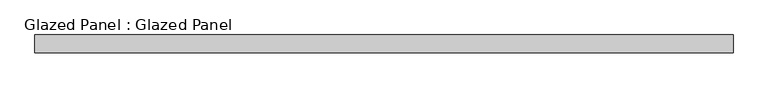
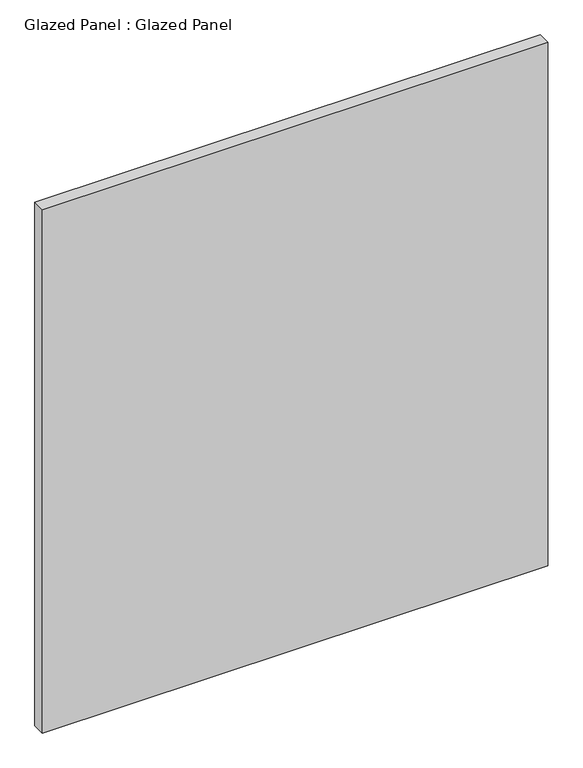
"""IFC4 building model written with IfcOpenShell, lengths in millimetres: plate geometry, Glazed Panel : Glazed Panel."""

from ifc_helpers import new_model, si_unit, origin, origin_with_axes, place, context, project, spatial, polyline, outline, extrude, source, transform, mapped, element, save


def glazed_panel_glazed_panel_1da3f97b(model_context):
    return source(origin(), model_context, "Body", "SweptSolid", [
        extrude(outline(polyline([(498.7728003, -38.1), (498.7728003, -63.5), (-498.7728003, -63.5), (-498.7728003, -38.1), (498.7728003, -38.1)])), origin_with_axes(), (0.0, 0.0, 1.0), 1092.2),
    ])


if __name__ == "__main__":
    model = new_model("IFC4")
    model_context = context("Model", 3, world=origin())
    ifc_project = project(units=[si_unit("LENGTHUNIT", "METRE", prefix="MILLI")], contexts=[model_context])
    site = spatial("IfcSite", under=ifc_project)
    building = spatial("IfcBuilding", under=site)
    placement = place(None, origin())
    glazed_panel_glazed_panel_shape = glazed_panel_glazed_panel_1da3f97b(model_context)
    element("IfcPlate", 1, ObjectType="Glazed Panel : Glazed Panel", at=placement, inside=building, context=model_context, shape_type="MappedRepresentation", body=[
        mapped(glazed_panel_glazed_panel_shape, transform((0.0, 0.0, 0.0), x_axis=(1.0, 0.0, 0.0), y_axis=(0.0, 1.0, 0.0), z_axis=(0.0, 0.0, 1.0))),
    ])
    save(model, "model.ifc")
